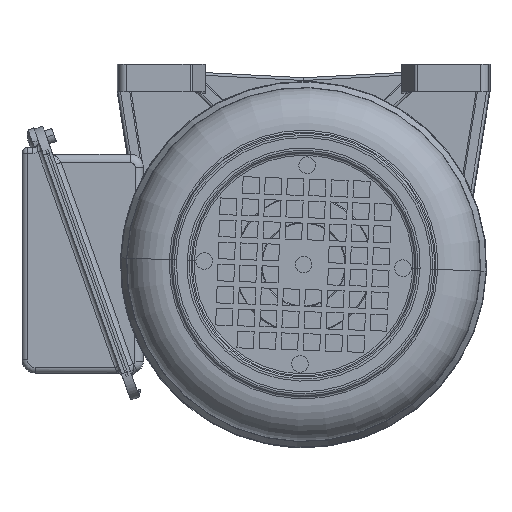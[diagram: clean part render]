
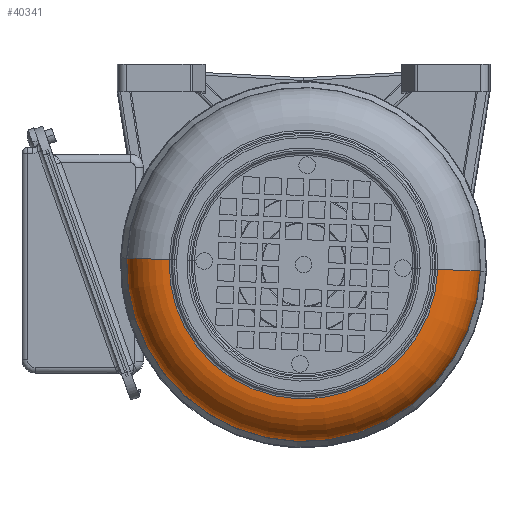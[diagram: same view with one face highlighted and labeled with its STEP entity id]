
A CAD part, front view. The second image highlights one B-rep face of the part: STEP entity #40341.
In plain terms, the highlighted toroidal (fillet/blend) face has major radius 48.673 mm and minor radius 15.331 mm.
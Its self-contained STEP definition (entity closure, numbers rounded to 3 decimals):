
#328 = DIRECTION ( 'NONE',  ( -1., 0., 0. ) ) ;
#677 = CIRCLE ( 'NONE', #34880, 48.659 ) ;
#962 = VERTEX_POINT ( 'NONE', #23665 ) ;
#2789 = CARTESIAN_POINT ( 'NONE',  ( 0.006, 0., 0. ) ) ;
#2924 = DIRECTION ( 'NONE',  ( -1., 0., 0. ) ) ;
#7119 = DIRECTION ( 'NONE',  ( 0., 1., 0. ) ) ;
#7164 = AXIS2_PLACEMENT_3D ( 'NONE', #49087, #7119, #25807 ) ;
#9711 = ORIENTED_EDGE ( 'NONE', *, *, #49000, .F. ) ;
#10280 = EDGE_CURVE ( 'NONE', #43642, #38925, #33576, .T. ) ;
#11100 = VERTEX_POINT ( 'NONE', #18872 ) ;
#12902 = CARTESIAN_POINT ( 'NONE',  ( 0.006, 0., -48.659 ) ) ;
#13453 = TOROIDAL_SURFACE ( 'NONE', #47690, 48.673, 15.331 ) ;
#15967 = CARTESIAN_POINT ( 'NONE',  ( -15.325, 0., 48.673 ) ) ;
#17217 = ORIENTED_EDGE ( 'NONE', *, *, #57107, .T. ) ;
#18872 = CARTESIAN_POINT ( 'NONE',  ( -15., 0., 64. ) ) ;
#18978 = DIRECTION ( 'NONE',  ( 0., 0., 1. ) ) ;
#20462 = EDGE_CURVE ( 'NONE', #43642, #962, #677, .T. ) ;
#20553 = CIRCLE ( 'NONE', #54786, 15.331 ) ;
#21459 = DIRECTION ( 'NONE',  ( -1., 0., 0. ) ) ;
#21596 = DIRECTION ( 'NONE',  ( 0., 0., 1. ) ) ;
#23665 = CARTESIAN_POINT ( 'NONE',  ( 0.006, 0., 48.659 ) ) ;
#25807 = DIRECTION ( 'NONE',  ( 0., 0., 1. ) ) ;
#27890 = AXIS2_PLACEMENT_3D ( 'NONE', #42275, #328, #18978 ) ;
#33576 = CIRCLE ( 'NONE', #7164, 15.331 ) ;
#34656 = DIRECTION ( 'NONE',  ( 0., -1., 0. ) ) ;
#34880 = AXIS2_PLACEMENT_3D ( 'NONE', #2789, #21459, #40152 ) ;
#36262 = ORIENTED_EDGE ( 'NONE', *, *, #20462, .T. ) ;
#38480 = EDGE_LOOP ( 'NONE', ( #49432, #36262, #17217, #9711 ) ) ;
#38925 = VERTEX_POINT ( 'NONE', #46545 ) ;
#40152 = DIRECTION ( 'NONE',  ( 0., 0., 1. ) ) ;
#40341 = ADVANCED_FACE ( 'NONE', ( #49474 ), #13453, .T. ) ;
#42275 = CARTESIAN_POINT ( 'NONE',  ( -15., 0., 0. ) ) ;
#43642 = VERTEX_POINT ( 'NONE', #12902 ) ;
#44887 = CARTESIAN_POINT ( 'NONE',  ( -15.325, 0., 0. ) ) ;
#46545 = CARTESIAN_POINT ( 'NONE',  ( -15., 0., -64. ) ) ;
#47690 = AXIS2_PLACEMENT_3D ( 'NONE', #44887, #2924, #21596 ) ;
#49000 = EDGE_CURVE ( 'NONE', #38925, #11100, #54304, .T. ) ;
#49087 = CARTESIAN_POINT ( 'NONE',  ( -15.325, 0., -48.673 ) ) ;
#49432 = ORIENTED_EDGE ( 'NONE', *, *, #10280, .F. ) ;
#49474 = FACE_OUTER_BOUND ( 'NONE', #38480, .T. ) ;
#53354 = DIRECTION ( 'NONE',  ( 0., 0., -1. ) ) ;
#54304 = CIRCLE ( 'NONE', #27890, 64. ) ;
#54786 = AXIS2_PLACEMENT_3D ( 'NONE', #15967, #34656, #53354 ) ;
#57107 = EDGE_CURVE ( 'NONE', #962, #11100, #20553, .T. ) ;
